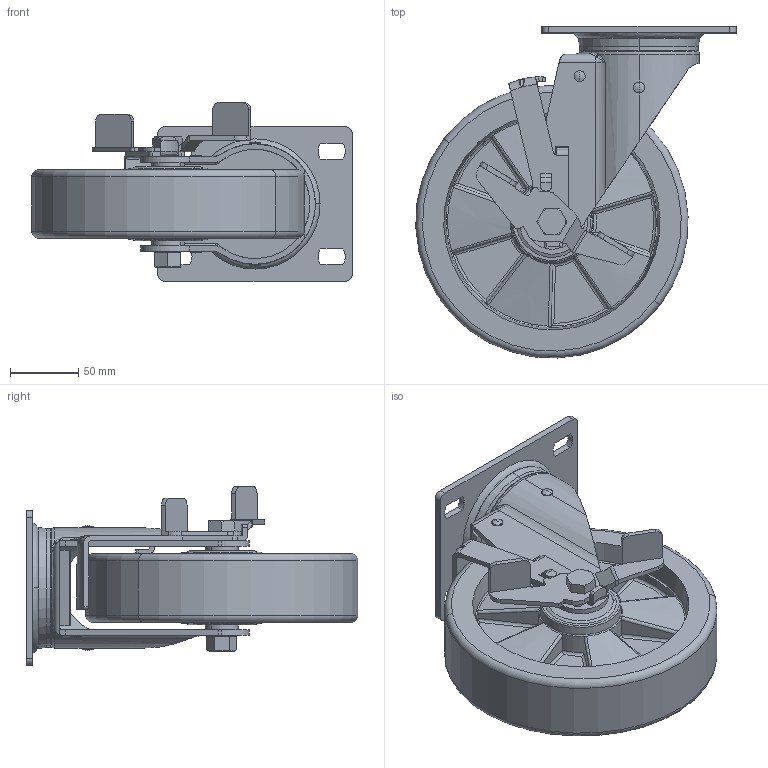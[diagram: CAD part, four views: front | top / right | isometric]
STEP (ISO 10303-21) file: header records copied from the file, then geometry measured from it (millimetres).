
FILE_DESCRIPTION (( 'STEP AP214' ), '1' );
FILE_NAME ('77128C-788-86A す階耜价.STEP', '2019-12-24T23:56:24', ( 'Owner' ), ( 'Organization' ), 'SwSTEP 2.0', 'SolidWorks 2014', '' );
FILE_SCHEMA (( 'AUTOMOTIVE_DESIGN' ));
Length unit declared in the file: millimetre
Products named in the file (10): 750-33a; 穩隊芛; 688-11; 8渡耜价; 788-86AB; 750-34a; 708-15 价陬え; 7710-502A 耜价; 680-01a 侐源; 77128C-788-86A す階耜价
Assembly tree (12 placements, depth 3):
  77128C-788-86A す階耜价
    8渡耜价
      680-01a 侐源
      688-11
      708-15 价陬え
      750-33a
      750-34a
      7710-502A 耜价
      穩隊芛  x4
    788-86AB
Bounding box: 234.01 x 242.29 x 130.5 mm (x, y, z)
Volume: 1274783.4 mm3; surface area: 249100.1 mm2
Topology: 10 solids, 11 shells, 666 faces, 1830 edges, 1203 vertices
Faces by surface type: plane 241, cylinder 231, bspline 100, torus 44, cone 42, sphere 8
Entity records: 149630 total; most frequent: CARTESIAN_POINT 133694, ORIENTED_EDGE 3582, DIRECTION 2767, EDGE_CURVE 1800, VERTEX_POINT 1182, AXIS2_PLACEMENT_3D 965, LINE 837, VECTOR 837
